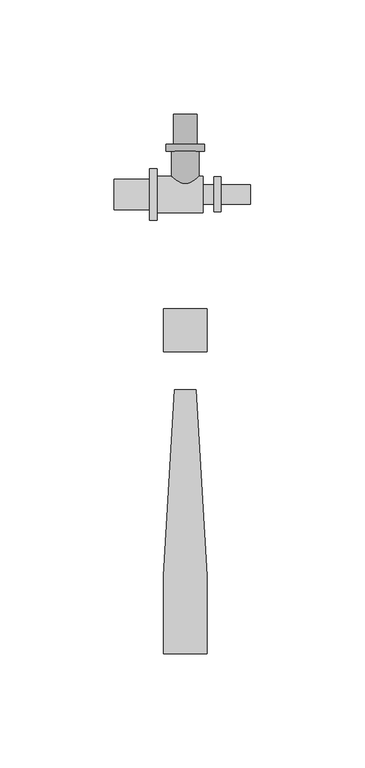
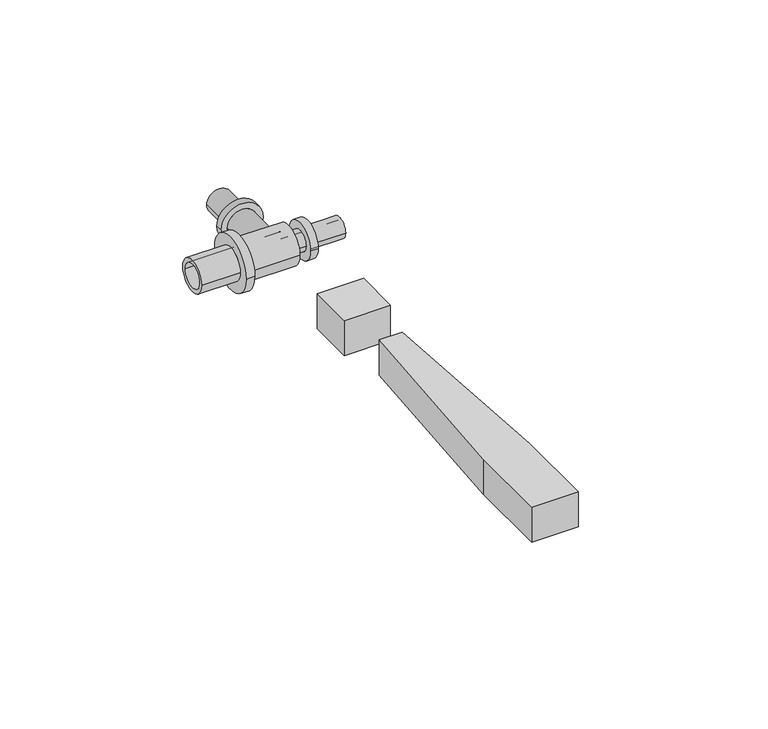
"""IFC4 building model written with IfcOpenShell, lengths in millimetres: pipe fitting geometry, RAUTITAN_T-piece_LX : RTI LX T DN."""

from ifc_helpers import new_model, si_unit, frame, origin, origin_with_axes, place, context, project, spatial, polyline, circle_curve, outline, extrude, source, transform, mapped, element, save
from ifc_brep_helpers import plane_surface, cylinder_surface, revolved_surface, advanced_brep


def pipe_fitting_9dffc905(model_context):
    return source(origin(), model_context, "Body", "SolidModel", [
        advanced_brep(
        [(-6.0, 19.0, 0.0), (6.0, 19.0, 0.0), (6.0, 0.0, 0.0), (-6.0, 0.0, 0.0), (-8.5, 22.0, 0.0), (8.5, 22.0, 0.0), (8.5, 19.0, 0.0), (-8.5, 19.0, 0.0), (-5.1, 35.0, 0.0), (5.1, 35.0, 0.0), (5.1, 22.0, 0.0), (-5.1, 22.0, 0.0), (-3.3, 0.0, 0.0), (3.3, 0.0, 0.0), (3.3, 35.0, 0.0), (-3.3, 35.0, 0.0)],
        [
            (0, 1, circle_curve(frame((0.0, 19.0, 0.0), z_axis=(0.0, -1.0, 0.0), x_axis=(1.0, 0.0, 0.0)), 6.0)),
            (1, 2),
            (2, 3, circle_curve(frame((0.0, 0.0, 0.0), z_axis=(0.0, 1.0, 0.0), x_axis=(1.0, 0.0, 0.0)), 6.0)),
            (3, 0),
            (4, 5, circle_curve(frame((0.0, 22.0, 0.0), z_axis=(0.0, -1.0, 0.0), x_axis=(1.0, 0.0, 0.0)), 8.5)),
            (5, 6),
            (6, 7, circle_curve(frame((0.0, 19.0, 0.0), z_axis=(0.0, 1.0, 0.0), x_axis=(1.0, 0.0, 0.0)), 8.5)),
            (7, 4),
            (8, 9, circle_curve(frame((0.0, 35.0, 0.0), z_axis=(0.0, -1.0, 0.0), x_axis=(1.0, 0.0, 0.0)), 5.1)),
            (9, 10),
            (10, 11, circle_curve(frame((0.0, 22.0, 0.0), z_axis=(0.0, 1.0, 0.0), x_axis=(1.0, 0.0, 0.0)), 5.1)),
            (11, 8),
            (12, 13, circle_curve(frame((0.0, 0.0, 0.0), z_axis=(0.0, -1.0, 0.0), x_axis=(1.0, 0.0, 0.0)), 3.3)),
            (13, 14),
            (14, 15, circle_curve(frame((0.0, 35.0, 0.0), z_axis=(0.0, 1.0, 0.0), x_axis=(1.0, 0.0, 0.0)), 3.3)),
            (15, 12),
            (1, 0, circle_curve(frame((0.0, 19.0, 0.0), z_axis=(0.0, -1.0, 0.0), x_axis=(-1.0, 0.0, 0.0)), 6.0)),
            (3, 2, circle_curve(frame((0.0, 0.0, 0.0), z_axis=(0.0, 1.0, 0.0), x_axis=(-1.0, 0.0, 0.0)), 6.0)),
            (6, 7, circle_curve(frame((0.0, 19.0, 0.0), z_axis=(0.0, -1.0, 0.0), x_axis=(-1.0, 0.0, 0.0)), 8.5)),
            (5, 4, circle_curve(frame((0.0, 22.0, 0.0), z_axis=(0.0, -1.0, 0.0), x_axis=(-1.0, 0.0, 0.0)), 8.5)),
            (10, 11, circle_curve(frame((0.0, 22.0, 0.0), z_axis=(0.0, -1.0, 0.0), x_axis=(-1.0, 0.0, 0.0)), 5.1)),
            (9, 8, circle_curve(frame((0.0, 35.0, 0.0), z_axis=(0.0, -1.0, 0.0), x_axis=(-1.0, 0.0, 0.0)), 5.1)),
            (14, 15, circle_curve(frame((0.0, 35.0, 0.0), z_axis=(0.0, -1.0, 0.0), x_axis=(-1.0, 0.0, 0.0)), 3.3)),
            (13, 12, circle_curve(frame((0.0, 0.0, 0.0), z_axis=(0.0, -1.0, 0.0), x_axis=(-1.0, 0.0, 0.0)), 3.3)),
        ],
        [
            cylinder_surface(frame((0.0, 0.0, 0.0), z_axis=(0.0, 1.0, 0.0), x_axis=(1.0, 0.0, 0.0)), 6.0),
            cylinder_surface(frame((0.0, 0.0, 0.0), z_axis=(0.0, 1.0, 0.0), x_axis=(1.0, 0.0, 0.0)), 8.5),
            cylinder_surface(frame((0.0, 0.0, 0.0), z_axis=(0.0, 1.0, 0.0), x_axis=(1.0, 0.0, 0.0)), 5.1),
            revolved_surface(polyline([(3.3, 35.0, 0.0), (3.3, 0.0, 0.0)]), (0.0, 0.0, 0.0), (0.0, 1.0, 0.0)),
            cylinder_surface(frame((0.0, 0.0, 0.0), z_axis=(0.0, 1.0, 0.0), x_axis=(-1.0, 0.0, 0.0)), 6.0),
            plane_surface(frame((0.0, 19.0, 0.0), z_axis=(0.0, -1.0, 0.0), x_axis=(-1.0, 0.0, 0.0))),
            cylinder_surface(frame((0.0, 0.0, 0.0), z_axis=(0.0, 1.0, 0.0), x_axis=(-1.0, 0.0, 0.0)), 8.5),
            plane_surface(frame((0.0, 22.0, 0.0), z_axis=(0.0, 1.0, 0.0), x_axis=(-1.0, 0.0, 0.0))),
            cylinder_surface(frame((0.0, 0.0, 0.0), z_axis=(0.0, 1.0, 0.0), x_axis=(-1.0, 0.0, 0.0)), 5.1),
            plane_surface(frame((0.0, 35.0, 0.0), z_axis=(0.0, 1.0, 0.0), x_axis=(-1.0, 0.0, 0.0))),
            revolved_surface(polyline([(-3.3, 35.0, 0.0), (-3.3, 0.0, 0.0)]), (0.0, 0.0, 0.0), (0.0, 1.0, 0.0)),
            plane_surface(frame((0.0, 0.0, 0.0), z_axis=(0.0, -1.0, 0.0), x_axis=(-1.0, 0.0, 0.0))),
        ],
        [
            (0, [[1, 2, 3, 4]]),
            (1, [[5, 6, 7, 8]]),
            (2, [[9, 10, 11, 12]]),
            (3, [[13, 14, 15, 16]]),
            (4, [[17, -4, 18, -2]]),
            (5, [[19, -7], [-17, -1]]),
            (6, [[20, -8, -19, -6]]),
            (7, [[-20, -5], [21, -11]]),
            (8, [[22, -12, -21, -10]]),
            (9, [[-22, -9], [23, -15]]),
            (10, [[24, -16, -23, -14]]),
            (11, [[-18, -3], [-24, -13]]),
        ],
    ),
        advanced_brep(
        [(-31.1, 4.95, 0.0), (-31.1, -4.95, 0.0), (6.0, -4.95, 0.0), (6.0, 4.95, 0.0), (7.8, 8.05, 0.0), (7.8, -8.05, 0.0), (-12.3, -8.05, 0.0), (-12.3, 8.05, 0.0), (-12.3, 11.25, 0.0), (-12.3, -11.25, 0.0), (-15.6, -11.25, 0.0), (-15.6, 11.25, 0.0), (-15.6, 6.75, 0.0), (-15.6, -6.75, 0.0), (-31.1, -6.75, 0.0), (-31.1, 6.75, 0.0), (6.0, 2.45, 0.0), (6.0, -2.45, 0.0), (28.5, -2.45, 0.0), (28.5, 2.45, 0.0), (28.5, 4.25, 0.0), (28.5, -4.25, 0.0), (15.5, -4.25, 0.0), (15.5, 4.25, 0.0), (15.5, 7.65, 0.0), (15.5, -7.65, 0.0), (12.5, -7.65, 0.0), (12.5, 7.65, 0.0), (12.5, 4.25, 0.0), (12.5, -4.25, 0.0), (7.8, -4.25, 0.0), (7.8, 4.25, 0.0)],
        [
            (0, 1, circle_curve(frame((-31.1, 0.0, 0.0), z_axis=(-1.0, 0.0, 0.0), x_axis=(0.0, -1.0, 0.0)), 4.95)),
            (1, 2),
            (2, 3, circle_curve(frame((6.0, 0.0, 0.0), z_axis=(1.0, 0.0, 0.0), x_axis=(0.0, -1.0, 0.0)), 4.95)),
            (3, 0),
            (4, 5, circle_curve(frame((7.8, 0.0, 0.0), z_axis=(-1.0, 0.0, 0.0), x_axis=(0.0, -1.0, 0.0)), 8.05)),
            (5, 6),
            (6, 7, circle_curve(frame((-12.3, 0.0, 0.0), z_axis=(1.0, 0.0, 0.0), x_axis=(0.0, -1.0, 0.0)), 8.05)),
            (7, 4),
            (1, 0, circle_curve(frame((-31.1, 0.0, 0.0), z_axis=(-1.0, 0.0, 0.0), x_axis=(0.0, 1.0, 0.0)), 4.95)),
            (3, 2, circle_curve(frame((6.0, 0.0, 0.0), z_axis=(1.0, 0.0, 0.0), x_axis=(0.0, 1.0, 0.0)), 4.95)),
            (5, 4, circle_curve(frame((7.8, 0.0, 0.0), z_axis=(-1.0, 0.0, 0.0), x_axis=(0.0, 1.0, 0.0)), 8.05)),
            (7, 6, circle_curve(frame((-12.3, 0.0, 0.0), z_axis=(1.0, 0.0, 0.0), x_axis=(0.0, 1.0, 0.0)), 8.05)),
            (8, 9, circle_curve(frame((-12.3, 0.0, 0.0), z_axis=(-1.0, 0.0, 0.0), x_axis=(0.0, -1.0, 0.0)), 11.25)),
            (9, 10),
            (10, 11, circle_curve(frame((-15.6, 0.0, 0.0), z_axis=(1.0, 0.0, 0.0), x_axis=(0.0, -1.0, 0.0)), 11.25)),
            (11, 8),
            (12, 13, circle_curve(frame((-15.6, 0.0, 0.0), z_axis=(-1.0, 0.0, 0.0), x_axis=(0.0, -1.0, 0.0)), 6.75)),
            (13, 14),
            (14, 15, circle_curve(frame((-31.1, 0.0, 0.0), z_axis=(1.0, 0.0, 0.0), x_axis=(0.0, -1.0, 0.0)), 6.75)),
            (15, 12),
            (8, 9, circle_curve(frame((-12.3, 0.0, 0.0), z_axis=(1.0, 0.0, 0.0), x_axis=(0.0, 1.0, 0.0)), 11.25)),
            (11, 10, circle_curve(frame((-15.6, 0.0, 0.0), z_axis=(1.0, 0.0, 0.0), x_axis=(0.0, 1.0, 0.0)), 11.25)),
            (12, 13, circle_curve(frame((-15.6, 0.0, 0.0), z_axis=(1.0, 0.0, 0.0), x_axis=(0.0, 1.0, 0.0)), 6.75)),
            (15, 14, circle_curve(frame((-31.1, 0.0, 0.0), z_axis=(1.0, 0.0, 0.0), x_axis=(0.0, 1.0, 0.0)), 6.75)),
            (16, 17, circle_curve(frame((6.0, 0.0, 0.0), z_axis=(-1.0, 0.0, 0.0), x_axis=(0.0, -1.0, 0.0)), 2.45)),
            (17, 18),
            (18, 19, circle_curve(frame((28.5, 0.0, 0.0), z_axis=(1.0, 0.0, 0.0), x_axis=(0.0, -1.0, 0.0)), 2.45)),
            (19, 16),
            (20, 21, circle_curve(frame((28.5, 0.0, 0.0), z_axis=(-1.0, 0.0, 0.0), x_axis=(0.0, -1.0, 0.0)), 4.25)),
            (21, 22),
            (22, 23, circle_curve(frame((15.5, 0.0, 0.0), z_axis=(1.0, 0.0, 0.0), x_axis=(0.0, -1.0, 0.0)), 4.25)),
            (23, 20),
            (24, 25, circle_curve(frame((15.5, 0.0, 0.0), z_axis=(-1.0, 0.0, 0.0), x_axis=(0.0, -1.0, 0.0)), 7.65)),
            (25, 26),
            (26, 27, circle_curve(frame((12.5, 0.0, 0.0), z_axis=(1.0, 0.0, 0.0), x_axis=(0.0, -1.0, 0.0)), 7.65)),
            (27, 24),
            (28, 29, circle_curve(frame((12.5, 0.0, 0.0), z_axis=(-1.0, 0.0, 0.0), x_axis=(0.0, -1.0, 0.0)), 4.25)),
            (29, 30),
            (30, 31, circle_curve(frame((7.8, 0.0, 0.0), z_axis=(1.0, 0.0, 0.0), x_axis=(0.0, -1.0, 0.0)), 4.25)),
            (31, 28),
            (16, 17, circle_curve(frame((6.0, 0.0, 0.0), z_axis=(1.0, 0.0, 0.0), x_axis=(0.0, 1.0, 0.0)), 2.45)),
            (19, 18, circle_curve(frame((28.5, 0.0, 0.0), z_axis=(1.0, 0.0, 0.0), x_axis=(0.0, 1.0, 0.0)), 2.45)),
            (20, 21, circle_curve(frame((28.5, 0.0, 0.0), z_axis=(1.0, 0.0, 0.0), x_axis=(0.0, 1.0, 0.0)), 4.25)),
            (23, 22, circle_curve(frame((15.5, 0.0, 0.0), z_axis=(1.0, 0.0, 0.0), x_axis=(0.0, 1.0, 0.0)), 4.25)),
            (24, 25, circle_curve(frame((15.5, 0.0, 0.0), z_axis=(1.0, 0.0, 0.0), x_axis=(0.0, 1.0, 0.0)), 7.65)),
            (27, 26, circle_curve(frame((12.5, 0.0, 0.0), z_axis=(1.0, 0.0, 0.0), x_axis=(0.0, 1.0, 0.0)), 7.65)),
            (28, 29, circle_curve(frame((12.5, 0.0, 0.0), z_axis=(1.0, 0.0, 0.0), x_axis=(0.0, 1.0, 0.0)), 4.25)),
            (31, 30, circle_curve(frame((7.8, 0.0, 0.0), z_axis=(1.0, 0.0, 0.0), x_axis=(0.0, 1.0, 0.0)), 4.25)),
        ],
        [
            revolved_surface(polyline([(6.0, -4.95, 0.0), (-31.1, -4.95, 0.0)]), (0.0, 0.0, 0.0), (1.0, 0.0, 0.0)),
            cylinder_surface(frame((0.0, 0.0, 0.0), z_axis=(1.0, 0.0, 0.0), x_axis=(0.0, -1.0, 0.0)), 8.05),
            revolved_surface(polyline([(6.0, 4.95, 0.0), (-31.1, 4.95, 0.0)]), (0.0, 0.0, 0.0), (1.0, 0.0, 0.0)),
            cylinder_surface(frame((0.0, 0.0, 0.0), z_axis=(1.0, 0.0, 0.0), x_axis=(0.0, 1.0, 0.0)), 8.05),
            cylinder_surface(frame((0.0, 0.0, 0.0), z_axis=(1.0, 0.0, 0.0), x_axis=(0.0, -1.0, 0.0)), 11.25),
            cylinder_surface(frame((0.0, 0.0, 0.0), z_axis=(1.0, 0.0, 0.0), x_axis=(0.0, -1.0, 0.0)), 6.75),
            plane_surface(frame((-12.3, 0.0, 0.0), z_axis=(1.0, 0.0, 0.0), x_axis=(0.0, 1.0, 0.0))),
            cylinder_surface(frame((0.0, 0.0, 0.0), z_axis=(1.0, 0.0, 0.0), x_axis=(0.0, 1.0, 0.0)), 11.25),
            plane_surface(frame((-15.6, 0.0, 0.0), z_axis=(-1.0, 0.0, 0.0), x_axis=(0.0, 1.0, 0.0))),
            cylinder_surface(frame((0.0, 0.0, 0.0), z_axis=(1.0, 0.0, 0.0), x_axis=(0.0, 1.0, 0.0)), 6.75),
            plane_surface(frame((-31.1, 0.0, 0.0), z_axis=(-1.0, 0.0, 0.0), x_axis=(0.0, 1.0, 0.0))),
            revolved_surface(polyline([(28.5, -2.45, 0.0), (6.0, -2.45, 0.0)]), (0.0, 0.0, 0.0), (1.0, 0.0, 0.0)),
            cylinder_surface(frame((0.0, 0.0, 0.0), z_axis=(1.0, 0.0, 0.0), x_axis=(0.0, -1.0, 0.0)), 4.25),
            cylinder_surface(frame((0.0, 0.0, 0.0), z_axis=(1.0, 0.0, 0.0), x_axis=(0.0, -1.0, 0.0)), 7.65),
            plane_surface(frame((6.0, 0.0, 0.0), z_axis=(-1.0, 0.0, 0.0), x_axis=(0.0, 1.0, 0.0))),
            revolved_surface(polyline([(28.5, 2.45, 0.0), (6.0, 2.45, 0.0)]), (0.0, 0.0, 0.0), (1.0, 0.0, 0.0)),
            plane_surface(frame((28.5, 0.0, 0.0), z_axis=(1.0, 0.0, 0.0), x_axis=(0.0, 1.0, 0.0))),
            cylinder_surface(frame((0.0, 0.0, 0.0), z_axis=(1.0, 0.0, 0.0), x_axis=(0.0, 1.0, 0.0)), 4.25),
            plane_surface(frame((15.5, 0.0, 0.0), z_axis=(1.0, 0.0, 0.0), x_axis=(0.0, 1.0, 0.0))),
            cylinder_surface(frame((0.0, 0.0, 0.0), z_axis=(1.0, 0.0, 0.0), x_axis=(0.0, 1.0, 0.0)), 7.65),
            plane_surface(frame((12.5, 0.0, 0.0), z_axis=(-1.0, 0.0, 0.0), x_axis=(0.0, 1.0, 0.0))),
            plane_surface(frame((7.8, 0.0, 0.0), z_axis=(1.0, 0.0, 0.0), x_axis=(0.0, 1.0, 0.0))),
        ],
        [
            (0, [[1, 2, 3, 4]]),
            (1, [[5, 6, 7, 8]]),
            (2, [[9, -4, 10, -2]]),
            (3, [[11, -8, 12, -6]]),
            (4, [[13, 14, 15, 16]]),
            (5, [[17, 18, 19, 20]]),
            (6, [[21, -13], [-12, -7]]),
            (7, [[-21, -16, 22, -14]]),
            (8, [[-22, -15], [23, -17]]),
            (9, [[-23, -20, 24, -18]]),
            (10, [[-24, -19], [-9, -1]]),
            (11, [[25, 26, 27, 28]]),
            (12, [[29, 30, 31, 32]]),
            (13, [[33, 34, 35, 36]]),
            (12, [[37, 38, 39, 40]]),
            (14, [[-10, -3], [41, -25]]),
            (15, [[-41, -28, 42, -26]]),
            (16, [[43, -29], [-42, -27]]),
            (17, [[-43, -32, 44, -30]]),
            (18, [[45, -33], [-44, -31]]),
            (19, [[-45, -36, 46, -34]]),
            (20, [[-46, -35], [47, -37]]),
            (17, [[-47, -40, 48, -38]]),
            (21, [[-11, -5], [-48, -39]]),
        ],
    ),
        extrude(outline(polyline([(4.7088895, -85.3166715), (9.4177791, -166.6553807), (9.4177791, -200.6844652), (-9.4177791, -200.6844652), (-9.4177791, -166.6553807), (-4.7088895, -85.3166715), (4.7088895, -85.3166715)])), origin_with_axes(), (0.0, 0.0, 1.0), 15.0),
        extrude(outline(polyline([(9.4177791, -50.0), (9.4177791, -68.8355582), (-9.4177791, -68.8355582), (-9.4177791, -50.0), (9.4177791, -50.0)])), origin_with_axes(), (0.0, 0.0, 1.0), 15.0),
    ])


if __name__ == "__main__":
    model = new_model("IFC4")
    model_context = context("Model", 3, world=origin())
    ifc_project = project(units=[si_unit("LENGTHUNIT", "METRE", prefix="MILLI")], contexts=[model_context])
    site = spatial("IfcSite", under=ifc_project)
    building = spatial("IfcBuilding", under=site)
    placement = place(None, origin())
    pipe_fitting_shape = pipe_fitting_9dffc905(model_context)
    element("IfcPipeFitting", 1, ObjectType="RAUTITAN_T-piece_LX : RTI LX T DN", at=placement, inside=building, context=model_context, shape_type="MappedRepresentation", body=[
        mapped(pipe_fitting_shape, transform((0.0, 0.0, 0.0), x_axis=(1.0, 0.0, 0.0), y_axis=(0.0, 1.0, 0.0), z_axis=(0.0, 0.0, 1.0))),
    ])
    save(model, "model.ifc")
